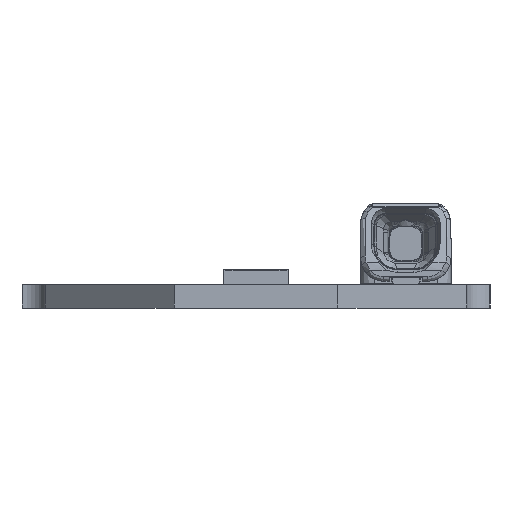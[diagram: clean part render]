
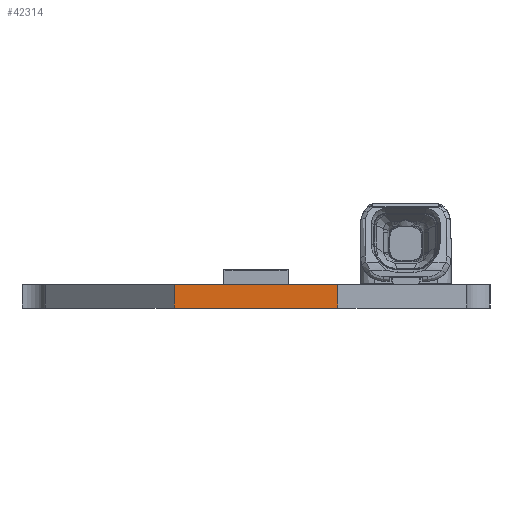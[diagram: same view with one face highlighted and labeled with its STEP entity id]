
A CAD part, left-side view. The second image highlights one B-rep face of the part: STEP entity #42314.
In plain terms, the highlighted planar face has unit normal (-1, 0, 0).
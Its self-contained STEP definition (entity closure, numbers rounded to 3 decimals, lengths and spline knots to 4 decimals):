
#1880=ORIENTED_EDGE('',*,*,#10293,.F.);
#1881=ORIENTED_EDGE('',*,*,#10583,.F.);
#1882=ORIENTED_EDGE('',*,*,#10491,.T.);
#1883=ORIENTED_EDGE('',*,*,#10582,.T.);
#10293=EDGE_CURVE('',#14779,#14780,#17707,.T.);
#10491=EDGE_CURVE('',#14887,#14977,#17833,.T.);
#10582=EDGE_CURVE('',#14977,#14780,#17924,.T.);
#10583=EDGE_CURVE('',#14887,#14779,#17925,.T.);
#14779=VERTEX_POINT('',#54297);
#14780=VERTEX_POINT('',#54299);
#14887=VERTEX_POINT('',#54514);
#14977=VERTEX_POINT('',#54694);
#17707=LINE('',#54298,#21517);
#17833=LINE('',#54695,#21643);
#17924=LINE('',#54876,#21734);
#17925=LINE('',#54878,#21735);
#21517=VECTOR('',#46234,1000.);
#21643=VECTOR('',#46506,1000.);
#21734=VECTOR('',#46777,1000.);
#21735=VECTOR('',#46780,1000.);
#25194=EDGE_LOOP('',(#1880,#1881,#1882,#1883));
#27078=FACE_BOUND('',#25194,.T.);
#28852=PLANE('',#44113);
#42314=ADVANCED_FACE('',(#27078),#28852,.T.);
#44113=AXIS2_PLACEMENT_3D('',#54877,#46778,#46779);
#46234=DIRECTION('',(0.,-1.,0.));
#46506=DIRECTION('',(0.,-1.,0.));
#46777=DIRECTION('',(0.,0.,1.));
#46778=DIRECTION('',(-1.,0.,0.));
#46779=DIRECTION('',(0.,0.,1.));
#46780=DIRECTION('',(0.,0.,1.));
#54297=CARTESIAN_POINT('',(-279.8,3.5,0.));
#54298=CARTESIAN_POINT('',(-279.8,3.5,0.));
#54299=CARTESIAN_POINT('',(-279.8,-3.5,0.));
#54514=CARTESIAN_POINT('',(-279.8,3.5,-1.));
#54694=CARTESIAN_POINT('',(-279.8,-3.5,-1.));
#54695=CARTESIAN_POINT('',(-279.8,3.5,-1.));
#54876=CARTESIAN_POINT('',(-279.8,-3.5,-1.));
#54877=CARTESIAN_POINT('',(-279.8,3.5,-1.));
#54878=CARTESIAN_POINT('',(-279.8,3.5,-1.));
